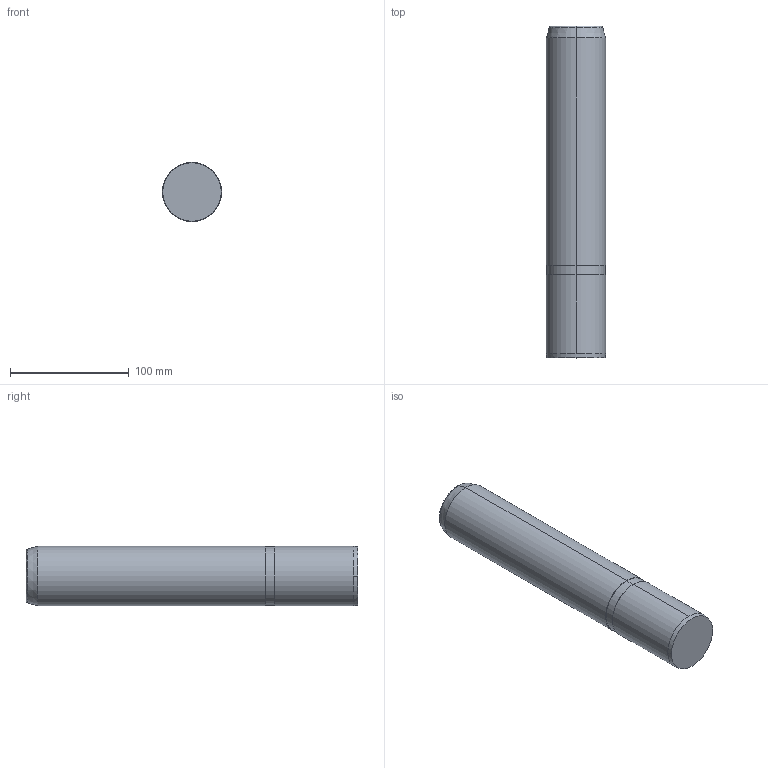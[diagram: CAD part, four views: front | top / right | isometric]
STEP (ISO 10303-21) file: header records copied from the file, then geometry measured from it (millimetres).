
FILE_DESCRIPTION (( 'STEP AP214' ), '1' );
FILE_NAME ('D13.02_50280.step', '2011-12-25T17:11:20', ( 'Dell' ), ( '' ), 'SwSTEP 2.0', 'SolidWorks 2010', '' );
FILE_SCHEMA (( 'AUTOMOTIVE_DESIGN' ));
Length unit declared in the file: millimetre
Products named in the file (1): D13.02_50280
Bounding box: 50 x 280 x 50 mm (x, y, z)
Volume: 547229.4 mm3; surface area: 47494.1 mm2
Topology: 1 solids, 1 shells, 16 faces, 34 edges, 22 vertices
Faces by surface type: cylinder 6, cone 4, plane 4, bspline 2
Entity records: 740 total; most frequent: CARTESIAN_POINT 355, DIRECTION 80, ORIENTED_EDGE 68, AXIS2_PLACEMENT_3D 35, EDGE_CURVE 34, VERTEX_POINT 22, CIRCLE 20, EDGE_LOOP 18
